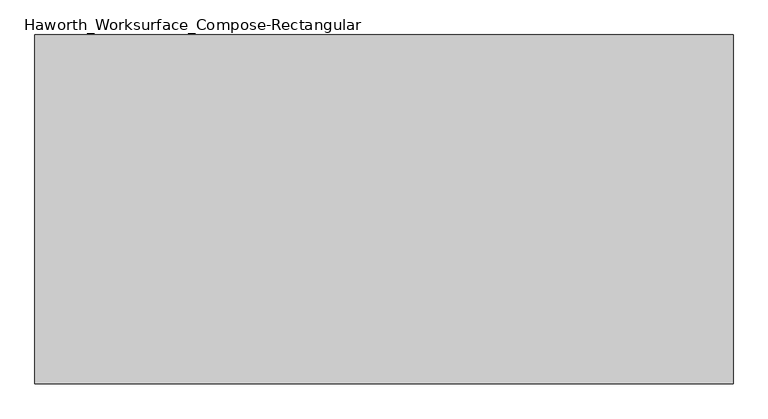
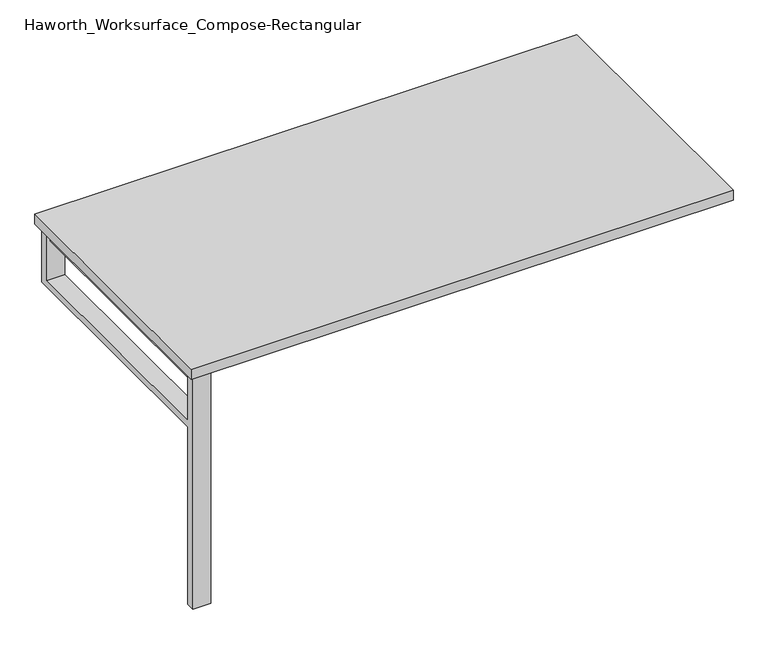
"""IFC4 building model written with IfcOpenShell, lengths in millimetres: furniture geometry, Haworth_Worksurface_Compose-Rectangular : 30'' x 60''."""

from ifc_helpers import new_model, si_unit, frame, origin, place, context, project, spatial, polyline, outline, extrude, source, transform, mapped, element, save


def haworth_worksurface_compose_rectangular_0a25eb7b(model_context):
    return source(origin(), model_context, "Body", "SweptSolid", [
        extrude(outline(polyline([(-701.675, 355.6), (-701.675, -330.2), (-733.425, -330.2), (-733.425, 355.6), (-701.675, 355.6)])), frame((0.0, 0.0, 661.9875), z_axis=(0.0, 0.0, 1.0), x_axis=(1.0, 0.0, 0.0)), (0.0, 0.0, 1.0), 44.45),
        extrude(outline(polyline([(-330.2, 528.6375), (-330.2, 0.0), (-355.6, 0.0), (-355.6, 706.4375), (-330.2, 706.4375), (-330.2, 547.6875), (355.6, 547.6875), (355.6, 706.4375), (381.0, 706.4375), (381.0, 528.6375), (-330.2, 528.6375)])), frame((-742.95, 0.0, 0.0), z_axis=(1.0, 0.0, 0.0), x_axis=(0.0, 1.0, 0.0)), (0.0, 0.0, 1.0), 50.8),
        extrude(outline(polyline([(762.0, 381.0), (762.0, -381.0), (-762.0, -381.0), (-762.0, 381.0), (762.0, 381.0)])), frame((0.0, 0.0, 706.4375), z_axis=(0.0, 0.0, 1.0), x_axis=(1.0, 0.0, 0.0)), (0.0, 0.0, 1.0), 30.1625),
    ])


if __name__ == "__main__":
    model = new_model("IFC4")
    model_context = context("Model", 3, world=origin())
    ifc_project = project(units=[si_unit("LENGTHUNIT", "METRE", prefix="MILLI")], contexts=[model_context])
    site = spatial("IfcSite", under=ifc_project)
    building = spatial("IfcBuilding", under=site)
    placement = place(None, origin())
    haworth_worksurface_compose_rectangular_shape = haworth_worksurface_compose_rectangular_0a25eb7b(model_context)
    element("IfcFurniture", 1, ObjectType="Haworth_Worksurface_Compose-Rectangular : 30'' x 60''", at=placement, inside=building, context=model_context, shape_type="MappedRepresentation", body=[
        mapped(haworth_worksurface_compose_rectangular_shape, transform((0.0, 0.0, 0.0), x_axis=(1.0, 0.0, 0.0), y_axis=(0.0, 1.0, 0.0), z_axis=(0.0, 0.0, 1.0))),
    ])
    save(model, "model.ifc")
